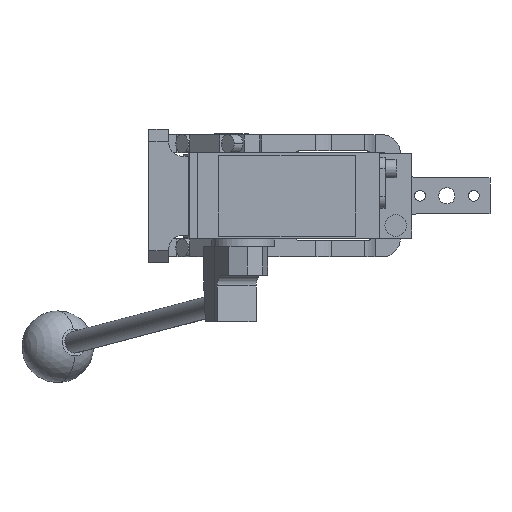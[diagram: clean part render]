
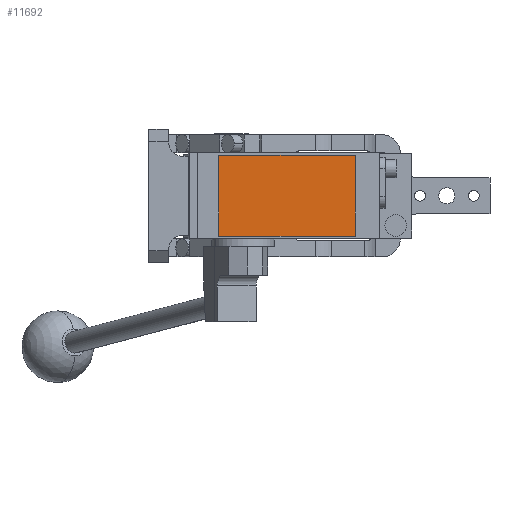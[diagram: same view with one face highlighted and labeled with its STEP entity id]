
A CAD part, front view. The second image highlights one B-rep face of the part: STEP entity #11692.
In plain terms, the highlighted planar face has unit normal (0, -1, 0).
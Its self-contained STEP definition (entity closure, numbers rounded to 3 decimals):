
#101 = VERTEX_POINT ( 'NONE', #11388 ) ;
#189 = VECTOR ( 'NONE', #15168, 1000. ) ;
#343 = FACE_OUTER_BOUND ( 'NONE', #703, .T. ) ;
#442 = EDGE_CURVE ( 'NONE', #101, #9128, #2290, .T. ) ;
#703 = EDGE_LOOP ( 'NONE', ( #3403, #1180, #4746, #6954 ) ) ;
#1180 = ORIENTED_EDGE ( 'NONE', *, *, #13306, .T. ) ;
#1534 = CARTESIAN_POINT ( 'NONE',  ( -7., -280.5, -22.5 ) ) ;
#1750 = CARTESIAN_POINT ( 'NONE',  ( 0., -280.5, 0. ) ) ;
#2290 = LINE ( 'NONE', #12191, #14920 ) ;
#3403 = ORIENTED_EDGE ( 'NONE', *, *, #8676, .T. ) ;
#4146 = DIRECTION ( 'NONE',  ( 0., -1., 0. ) ) ;
#4303 = AXIS2_PLACEMENT_3D ( 'NONE', #1750, #4146, #11729 ) ;
#4607 = CARTESIAN_POINT ( 'NONE',  ( -7., -280.5, 22.5 ) ) ;
#4678 = DIRECTION ( 'NONE',  ( 0., 0., 1. ) ) ;
#4746 = ORIENTED_EDGE ( 'NONE', *, *, #442, .T. ) ;
#5354 = VERTEX_POINT ( 'NONE', #6625 ) ;
#5647 = VECTOR ( 'NONE', #9543, 1000. ) ;
#6516 = CARTESIAN_POINT ( 'NONE',  ( -7., -280.5, -22.5 ) ) ;
#6625 = CARTESIAN_POINT ( 'NONE',  ( -7., -280.5, 22.5 ) ) ;
#6760 = VERTEX_POINT ( 'NONE', #6516 ) ;
#6954 = ORIENTED_EDGE ( 'NONE', *, *, #11739, .T. ) ;
#7016 = CARTESIAN_POINT ( 'NONE',  ( 69., -280.5, 22.5 ) ) ;
#8028 = PLANE ( 'NONE',  #4303 ) ;
#8506 = LINE ( 'NONE', #4607, #8715 ) ;
#8676 = EDGE_CURVE ( 'NONE', #5354, #6760, #10817, .T. ) ;
#8715 = VECTOR ( 'NONE', #10910, 1000. ) ;
#9128 = VERTEX_POINT ( 'NONE', #7016 ) ;
#9543 = DIRECTION ( 'NONE',  ( 0., 0., -1. ) ) ;
#10817 = LINE ( 'NONE', #14566, #5647 ) ;
#10910 = DIRECTION ( 'NONE',  ( -1., 0., 0. ) ) ;
#11388 = CARTESIAN_POINT ( 'NONE',  ( 69., -280.5, -22.5 ) ) ;
#11692 = ADVANCED_FACE ( 'NONE', ( #343 ), #8028, .T. ) ;
#11729 = DIRECTION ( 'NONE',  ( 0., 0., -1. ) ) ;
#11739 = EDGE_CURVE ( 'NONE', #9128, #5354, #8506, .T. ) ;
#12191 = CARTESIAN_POINT ( 'NONE',  ( 69., -280.5, 22.5 ) ) ;
#12654 = LINE ( 'NONE', #1534, #189 ) ;
#13306 = EDGE_CURVE ( 'NONE', #6760, #101, #12654, .T. ) ;
#14566 = CARTESIAN_POINT ( 'NONE',  ( -7., -280.5, 22.5 ) ) ;
#14920 = VECTOR ( 'NONE', #4678, 1000. ) ;
#15168 = DIRECTION ( 'NONE',  ( 1., 0., 0. ) ) ;
